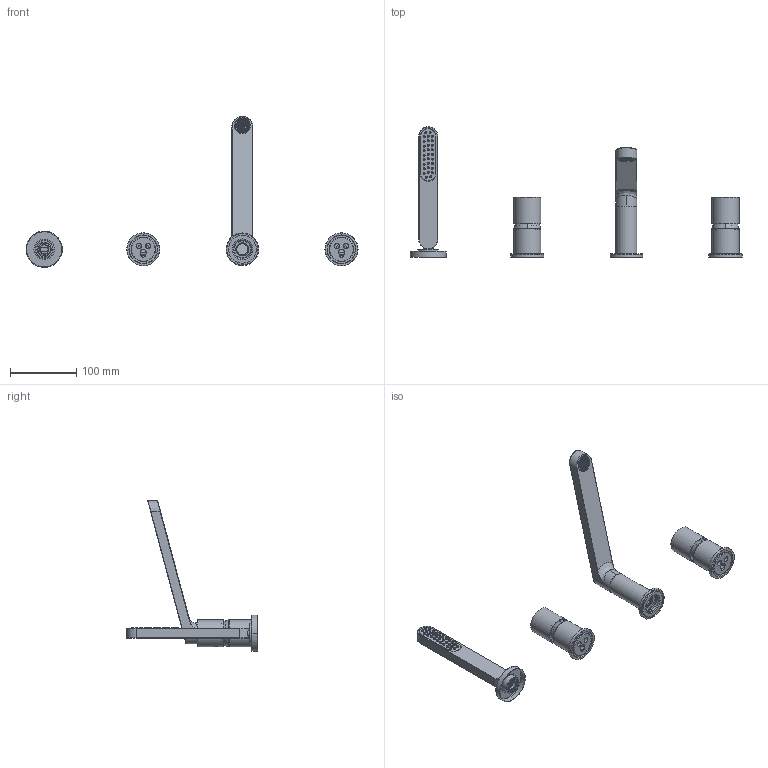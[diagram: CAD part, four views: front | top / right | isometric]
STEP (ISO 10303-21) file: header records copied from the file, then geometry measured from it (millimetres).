
FILE_DESCRIPTION((''),'2;1');
FILE_NAME('F4174N_ASM','2023-04-18T10:51:41',('samuelef'),(''),'CREO PARAMETRIC BY PTC INC, 2021184','CREO PARAMETRIC BY PTC INC, 2021184','');
FILE_SCHEMA(('CONFIG_CONTROL_DESIGN'));
Products named in the file (19): 1921CRO_AF0; 4618TAM; 4641MAR; 7384_BOTTONE_CROMATO_D_5_5; A1921D_NOMOS_AF0_ASM; 7441_AF0; 4643; 4851TOR; 5784; A4174CR_AF0_ASM; 1921CRO_AF1; A1921B_NOMOS_AF0_ASM; Z2406_DOCCIA_NEXT_AF0; TERMINALE_CONICO_1_2_AF0; 6462SP_AF0_ASM; 4565_SUPPORTO_DOCCIA_01_AF0; 4565_RODONE_CROMATO_AF0; 4565_AF0_ASM; F4174N_ASM
Assembly tree (21 placements, depth 3):
  F4174N_ASM
    A1921D_NOMOS_AF0_ASM
      1921CRO_AF0
      4618TAM
      4641MAR
      7384_BOTTONE_CROMATO_D_5_5
    7441_AF0
    A4174CR_AF0_ASM
      4643
      4851TOR
      5784
    A1921B_NOMOS_AF0_ASM
      1921CRO_AF1
      4618TAM
      4641MAR
      7384_BOTTONE_CROMATO_D_5_5
    Z2406_DOCCIA_NEXT_AF0
    6462SP_AF0_ASM
      TERMINALE_CONICO_1_2_AF0
    4565_AF0_ASM
      4565_SUPPORTO_DOCCIA_01_AF0
      4565_RODONE_CROMATO_AF0
Bounding box: 502.5 x 197.5 x 228.49 mm (x, y, z)
Volume: 268405.1 mm3; surface area: 156368.4 mm2
Topology: 16 solids, 18 shells, 6366 faces, 17358 edges, 11059 vertices
Faces by surface type: plane 4971, cylinder 1075, cone 121, torus 115, bspline 55, sphere 22, extrusion 7
Entity records: 215855 total; most frequent: CARTESIAN_POINT 77392, ORIENTED_EDGE 32546, DIRECTION 21771, EDGE_CURVE 16273, VERTEX_POINT 10370, B_SPLINE_CURVE_WITH_KNOTS 7685, VECTOR 7381, LINE 7374
